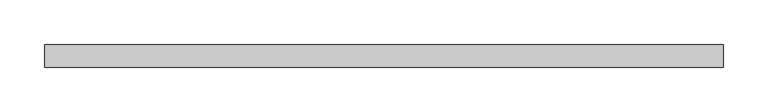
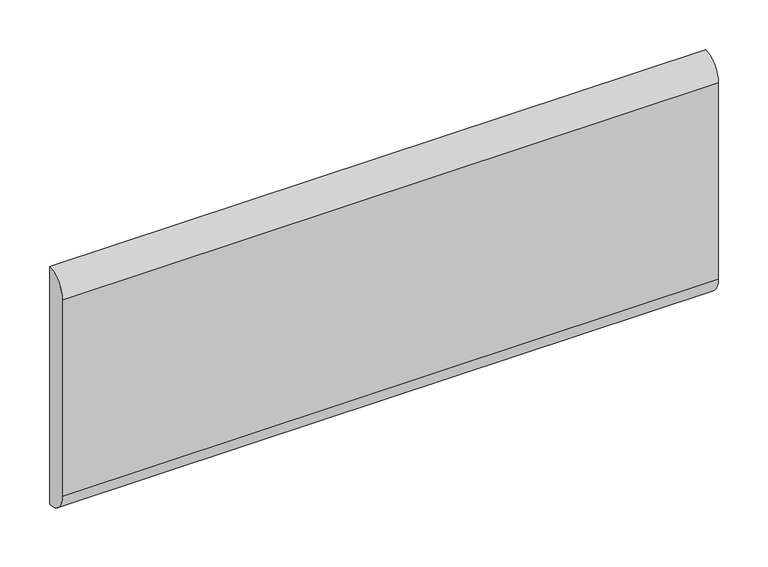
"""IFC4 building model written with IfcOpenShell, lengths in millimetres: furniture geometry."""

from ifc_helpers import new_model, si_unit, point, frame, frame_2d, origin, place, context, project, spatial, polyline, circle_curve, trimmed, segment, composite_curve, outline, extrude, source, transform, mapped, element, save


def furniture_cfa16b0f(model_context):
    return source(origin(), model_context, "Body", "SweptSolid", [
        extrude(outline(composite_curve([segment(trimmed(circle_curve(frame_2d((12.7, 1016.0)), 25.4), [point((12.7, 990.6))], [point((-12.7, 1016.0))], False, "CARTESIAN"), True, "CONTINUOUS"), segment(polyline([(-12.7, 1016.0), (-12.7, 1257.3)]), True, "CONTINUOUS"), segment(trimmed(circle_curve(frame_2d((12.7, 1257.3)), 25.4), [point((-12.7, 1257.3))], [point((12.7, 1282.7))], False, "CARTESIAN"), True, "CONTINUOUS"), segment(polyline([(12.7, 1282.7), (12.7, 990.6)]), True, "CONTINUOUS")], self_intersect=False)), frame((-381.0, 0.0, 0.0), z_axis=(1.0, 0.0, 0.0), x_axis=(0.0, 1.0, 0.0)), (0.0, 0.0, 1.0), 762.0),
    ])


if __name__ == "__main__":
    model = new_model("IFC4")
    model_context = context("Model", 3, world=origin())
    ifc_project = project(units=[si_unit("LENGTHUNIT", "METRE", prefix="MILLI")], contexts=[model_context])
    site = spatial("IfcSite", under=ifc_project)
    building = spatial("IfcBuilding", under=site)
    placement = place(None, origin())
    furniture_shape = furniture_cfa16b0f(model_context)
    element("IfcFurniture", 1, ObjectType="HermanMiller_ActionOffice_A3410_B-StyleTackboard : 12\"H x 30\"W", at=placement, inside=building, context=model_context, shape_type="MappedRepresentation", body=[
        mapped(furniture_shape, transform((0.0, 0.0, 0.0), x_axis=(1.0, 0.0, 0.0), y_axis=(0.0, 1.0, 0.0), z_axis=(0.0, 0.0, 1.0))),
    ])
    save(model, "model.ifc")
